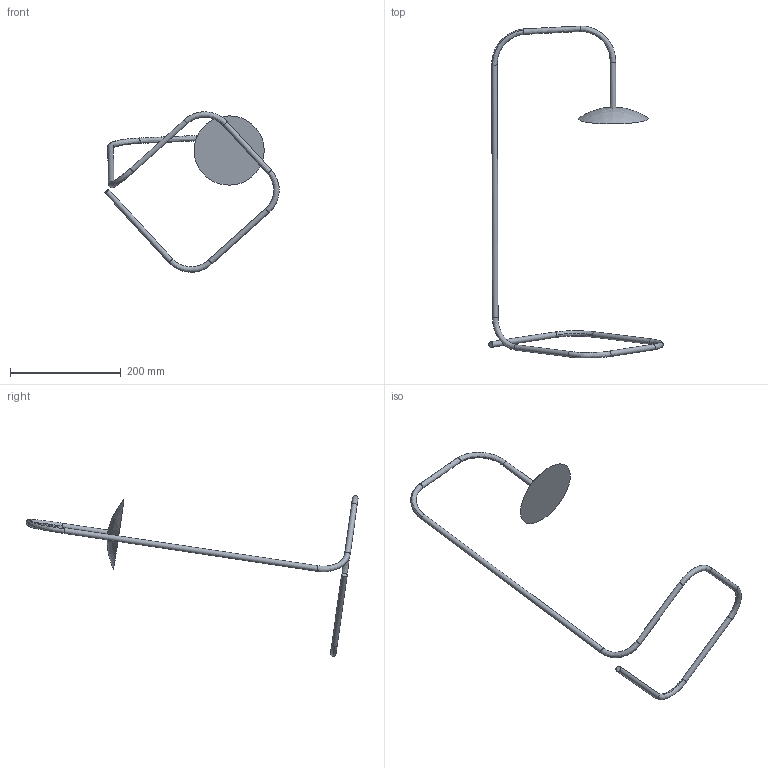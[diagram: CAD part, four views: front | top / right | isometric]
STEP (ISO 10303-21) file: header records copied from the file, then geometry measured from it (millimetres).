
FILE_DESCRIPTION(('STEP AP214'),'1');
FILE_NAME('Muna Table.stp','2018-12-19T00:19:58',(' '),(' '),'Spatial InterOp 3D',' ',' ');
FILE_SCHEMA(('AUTOMOTIVE_DESIGN { 1 0 10303 214 1 1 1 1 }'));
Length unit declared in the file: millimetre
Products named in the file (1): 1
Bounding box: 315.61 x 600.73 x 290.44 mm (x, y, z)
Volume: 383216.8 mm3; surface area: 106852.6 mm2
Topology: 2 solids, 3 shells, 26 faces, 53 edges, 33 vertices
Faces by surface type: bspline 26
Entity records: 8723 total; most frequent: CARTESIAN_POINT 8266, ORIENTED_EDGE 80, DIRECTION 74, EDGE_CURVE 41, AXIS2_PLACEMENT_3D 37, EDGE_LOOP 37, CIRCLE 32, VERTEX_POINT 31
